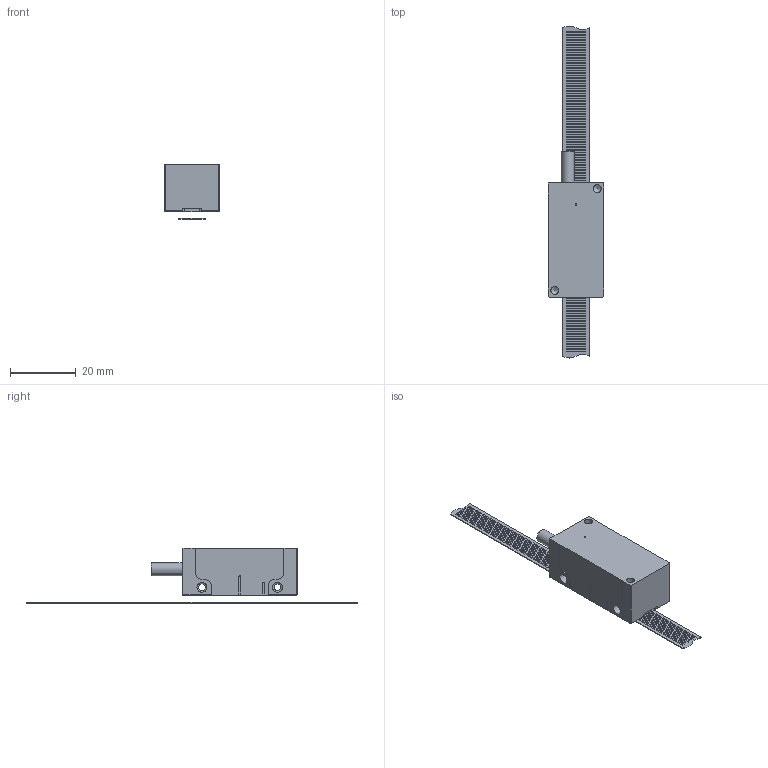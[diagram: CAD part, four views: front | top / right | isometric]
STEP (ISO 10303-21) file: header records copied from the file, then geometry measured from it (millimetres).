
FILE_DESCRIPTION(/* description */ (''),/* implementation_level */ '2;1');
FILE_NAME(/* name */ 'FSC-3D.stp',/* time_stamp */ '2021-01-20T10:43:07+08:00',/* author */ (''),/* organization */ (''),/* preprocessor_version */ 'ST-DEVELOPER v14',/* originating_system */ 'SIEMENS PLM Software NX 8.0',/* authorisation */ '');
FILE_SCHEMA (('CONFIG_CONTROL_DESIGN'));
Length unit declared in the file: millimetre
Products named in the file (1): FSC-3D
Bounding box: 16.9 x 101.07 x 16.9 mm (x, y, z)
Volume: 8492.9 mm3; surface area: 5125.3 mm2
Topology: 2 solids, 7 shells, 627 faces, 1542 edges, 1030 vertices
Faces by surface type: plane 575, cylinder 43, cone 9
Full cylindrical faces by diameter (mm): 0.5 x1, 2.085 x2, 2.416 x2, 3 x4, 4 x1, 6.5 x1
Entity records: 18076 total; most frequent: CARTESIAN_POINT 3172, ORIENTED_EDGE 3016, DIRECTION 2852, EDGE_CURVE 1508, LINE 1410, VECTOR 1410, VERTEX_POINT 1021, EDGE_LOOP 752
